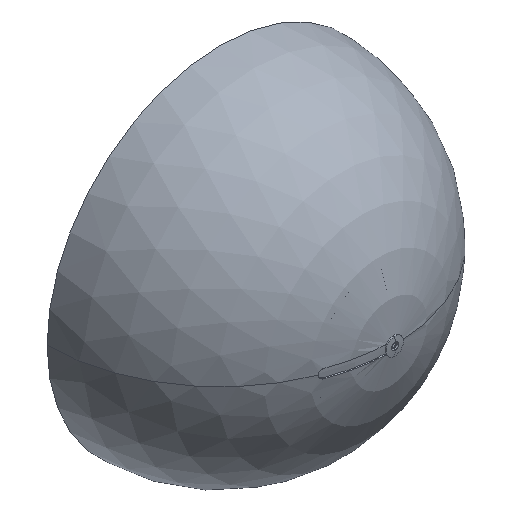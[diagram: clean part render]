
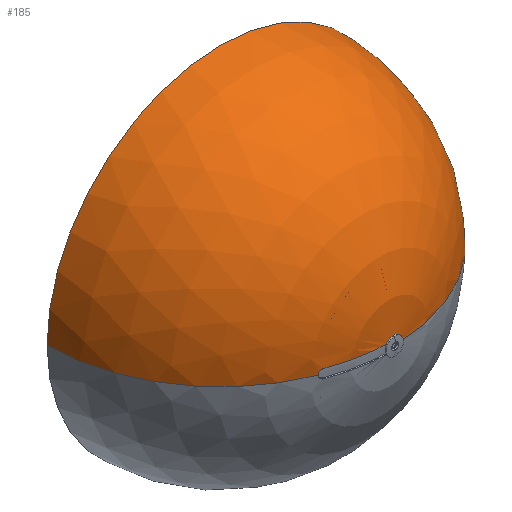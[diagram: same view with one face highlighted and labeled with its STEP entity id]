
A CAD part, isometric view. The second image highlights one B-rep face of the part: STEP entity #185.
In plain terms, the highlighted spherical face has radius 250 mm.
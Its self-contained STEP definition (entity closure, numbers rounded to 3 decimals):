
#1=CARTESIAN_POINT('',(0.,4150.,0.));
#2=DIRECTION('',(0.,-1.,0.));
#3=DIRECTION('',(1.,0.,0.));
#4=AXIS2_PLACEMENT_3D('',#1,#2,#3);
#21=CARTESIAN_POINT('',(-85.476,3915.156,0.));
#22=DIRECTION('',(0.342,0.94,0.));
#23=DIRECTION('',(-0.94,0.342,0.));
#24=AXIS2_PLACEMENT_3D('',#21,#22,#23);
#26=CARTESIAN_POINT('',(0.,4150.,0.));
#27=DIRECTION('',(0.,0.,1.));
#28=DIRECTION('',(0.026,-1.,0.));
#29=AXIS2_PLACEMENT_3D('',#26,#27,#28);
#31=CARTESIAN_POINT('',(0.,3900.085,0.));
#32=DIRECTION('',(0.,-1.,0.));
#33=DIRECTION('',(1.,0.,0.));
#34=AXIS2_PLACEMENT_3D('',#31,#32,#33);
#36=CARTESIAN_POINT('',(0.,4150.,6.5));
#37=DIRECTION('',(0.,0.,1.));
#38=DIRECTION('',(-0.342,-0.94,0.));
#39=AXIS2_PLACEMENT_3D('',#36,#37,#38);
#112=CARTESIAN_POINT('',(0.,4150.,0.));
#113=DIRECTION('',(0.,0.,-1.));
#114=DIRECTION('',(-0.366,-0.93,0.));
#115=AXIS2_PLACEMENT_3D('',#112,#113,#114);
#117=CARTESIAN_POINT('',(250.,4150.,0.));
#118=CARTESIAN_POINT('',(-250.,4150.,0.));
#119=VERTEX_POINT('',#117);
#120=VERTEX_POINT('',#118);
#125=CARTESIAN_POINT('',(6.5,3900.085,0.));
#126=VERTEX_POINT('',#125);
#134=CARTESIAN_POINT('',(0.,3900.085,6.5));
#136=VERTEX_POINT('',#134);
#138=CARTESIAN_POINT('',(-91.584,3917.379,
0.));
#140=VERTEX_POINT('',#138);
#141=CARTESIAN_POINT('',(-85.476,3915.156,6.5));
#142=VERTEX_POINT('',#141);
#167=CARTESIAN_POINT('',(0.,4150.,0.));
#168=DIRECTION('',(0.,-1.,0.));
#169=DIRECTION('',(1.,0.,0.));
#170=AXIS2_PLACEMENT_3D('',#167,#168,#169);
#171=SPHERICAL_SURFACE('',#170,250.);
#173=ORIENTED_EDGE('',*,*,#172,.F.);
#175=ORIENTED_EDGE('',*,*,#174,.T.);
#176=ORIENTED_EDGE('',*,*,#154,.F.);
#178=ORIENTED_EDGE('',*,*,#177,.F.);
#180=ORIENTED_EDGE('',*,*,#179,.T.);
#182=ORIENTED_EDGE('',*,*,#181,.F.);
#183=EDGE_LOOP('',(#173,#175,#176,#178,#180,#182));
#184=FACE_OUTER_BOUND('',#183,.F.);
#185=ADVANCED_FACE('',(#184),#171,.T.);
#5=CIRCLE('',#4,250.);
#25=CIRCLE('',#24,6.5);
#30=CIRCLE('',#29,250.);
#35=CIRCLE('',#34,6.5);
#40=CIRCLE('',#39,249.915);
#116=CIRCLE('',#115,250.);
#154=EDGE_CURVE('',#119,#120,#5,.T.);
#172=EDGE_CURVE('',#140,#142,#25,.T.);
#174=EDGE_CURVE('',#140,#120,#116,.T.);
#177=EDGE_CURVE('',#126,#119,#30,.T.);
#179=EDGE_CURVE('',#126,#136,#35,.T.);
#181=EDGE_CURVE('',#142,#136,#40,.T.);
